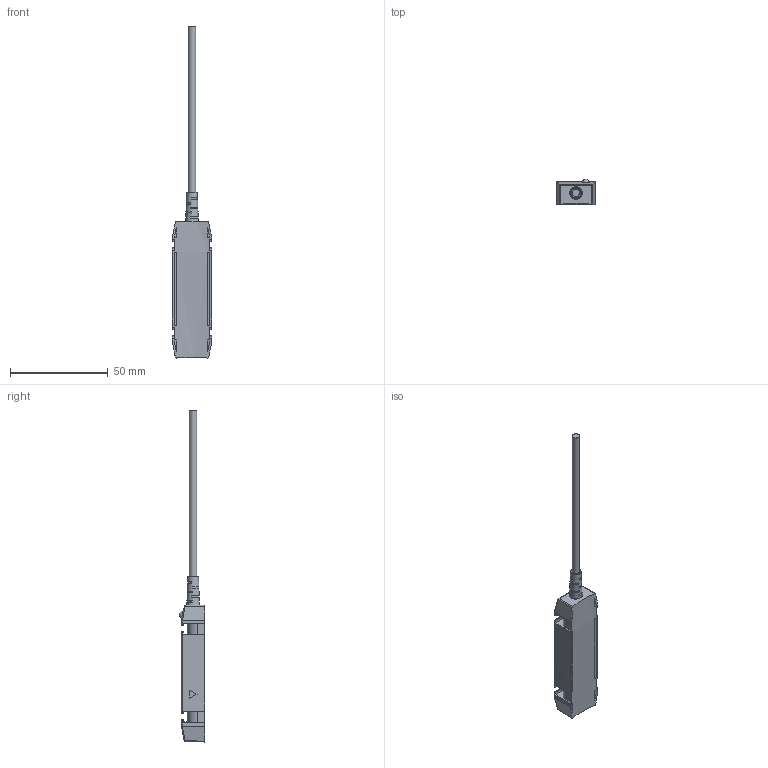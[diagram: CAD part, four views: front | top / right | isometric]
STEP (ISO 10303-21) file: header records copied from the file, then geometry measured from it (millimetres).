
FILE_DESCRIPTION(/* description */ (''),/* implementation_level */ '2;1');
FILE_NAME(/* name */ 'F:\HUAYIFENG\01)HUAYIFENG_宣传文件\01)HUAYIFENG_\X2\5BA34F2065874EF6\X0\_产品资料整合\03)产品3D文档\05)产品3D_接近系列_K12_2019\管型接近\IST-14_3D.stp',/* time_stamp */ '2019-05-09T17:36:39+08:00',/* author */ ('fengjiarun'),/* organization */ (''),/* preprocessor_version */ 'ST-DEVELOPER v16.5',/* originating_system */ 'Autodesk Inventor 2017',/* authorisation */ '');
FILE_SCHEMA (('AUTOMOTIVE_DESIGN { 1 0 10303 214 3 1 1 }'));
Length unit declared in the file: millimetre
Products named in the file (1): 零件9
Bounding box: 20.2 x 13.21 x 169.99 mm (x, y, z)
Volume: 15963.9 mm3; surface area: 6529.1 mm2
Topology: 1 solids, 2 shells, 149 faces, 372 edges, 233 vertices
Faces by surface type: plane 92, cylinder 42, sphere 13, cone 1, torus 1
Full cylindrical faces by diameter (mm): 3.8 x1, 6.1 x1
Entity records: 4291 total; most frequent: CARTESIAN_POINT 828, DIRECTION 727, ORIENTED_EDGE 694, EDGE_CURVE 347, AXIS2_PLACEMENT_3D 262, VERTEX_POINT 227, LINE 203, VECTOR 203
